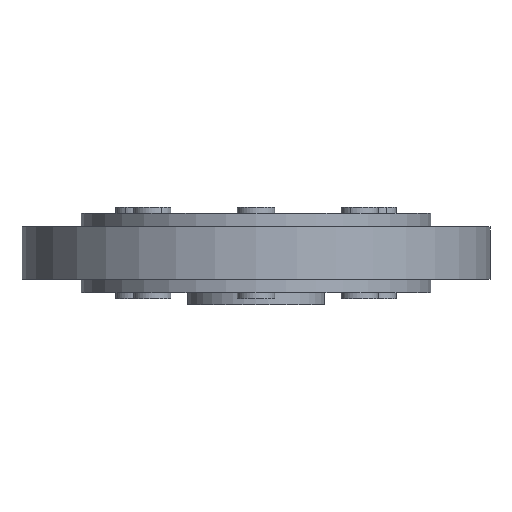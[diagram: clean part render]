
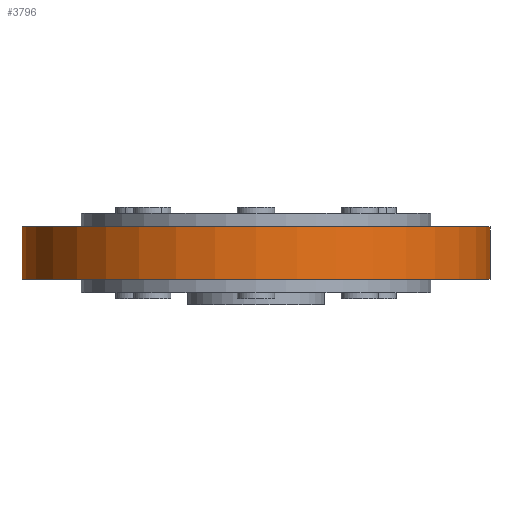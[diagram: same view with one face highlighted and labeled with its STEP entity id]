
A CAD part, front view. The second image highlights one B-rep face of the part: STEP entity #3796.
In plain terms, the highlighted cylindrical face has radius 37.5 mm (diameter 75 mm), a partial arc.
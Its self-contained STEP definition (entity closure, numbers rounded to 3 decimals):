
#27 = EDGE_CURVE ( 'NONE', #8478, #6279, #3710, .T. ) ;
#380 = VERTEX_POINT ( 'NONE', #2029 ) ;
#878 = CARTESIAN_POINT ( 'NONE',  ( 0., 0., -4.2 ) ) ;
#926 = DIRECTION ( 'NONE',  ( 0., 0., 1. ) ) ;
#988 = DIRECTION ( 'NONE',  ( 0., 0., -1. ) ) ;
#1798 = CARTESIAN_POINT ( 'NONE',  ( 37.5, 0., -4.2 ) ) ;
#2029 = CARTESIAN_POINT ( 'NONE',  ( -37.5, 0., 4.2 ) ) ;
#2175 = DIRECTION ( 'NONE',  ( 1., 0., 0. ) ) ;
#2274 = CARTESIAN_POINT ( 'NONE',  ( -37.5, 0., -4.2 ) ) ;
#2385 = DIRECTION ( 'NONE',  ( 1., 0., 0. ) ) ;
#2452 = LINE ( 'NONE', #5168, #3915 ) ;
#2643 = EDGE_CURVE ( 'NONE', #380, #8478, #3775, .T. ) ;
#2874 = CYLINDRICAL_SURFACE ( 'NONE', #8727, 37.5 ) ;
#2930 = DIRECTION ( 'NONE',  ( -1., 0., 0. ) ) ;
#3010 = DIRECTION ( 'NONE',  ( 0., 0., -1. ) ) ;
#3047 = CARTESIAN_POINT ( 'NONE',  ( 0., 0., 4.2 ) ) ;
#3077 = EDGE_CURVE ( 'NONE', #380, #6606, #7009, .T. ) ;
#3226 = ORIENTED_EDGE ( 'NONE', *, *, #3077, .F. ) ;
#3710 = CIRCLE ( 'NONE', #8107, 37.5 ) ;
#3775 = LINE ( 'NONE', #6488, #6181 ) ;
#3796 = ADVANCED_FACE ( 'NONE', ( #6926 ), #2874, .T. ) ;
#3915 = VECTOR ( 'NONE', #988, 1000. ) ;
#4340 = EDGE_LOOP ( 'NONE', ( #4881, #3226, #6226, #5280 ) ) ;
#4881 = ORIENTED_EDGE ( 'NONE', *, *, #6801, .F. ) ;
#4974 = CARTESIAN_POINT ( 'NONE',  ( 0., 0., 4.2 ) ) ;
#5168 = CARTESIAN_POINT ( 'NONE',  ( 37.5, 0., 4.2 ) ) ;
#5280 = ORIENTED_EDGE ( 'NONE', *, *, #27, .T. ) ;
#6181 = VECTOR ( 'NONE', #3010, 1000. ) ;
#6226 = ORIENTED_EDGE ( 'NONE', *, *, #2643, .T. ) ;
#6279 = VERTEX_POINT ( 'NONE', #1798 ) ;
#6488 = CARTESIAN_POINT ( 'NONE',  ( -37.5, 0., 4.2 ) ) ;
#6606 = VERTEX_POINT ( 'NONE', #7654 ) ;
#6801 = EDGE_CURVE ( 'NONE', #6606, #6279, #2452, .T. ) ;
#6926 = FACE_OUTER_BOUND ( 'NONE', #4340, .T. ) ;
#7009 = CIRCLE ( 'NONE', #8313, 37.5 ) ;
#7654 = CARTESIAN_POINT ( 'NONE',  ( 37.5, 0., 4.2 ) ) ;
#8107 = AXIS2_PLACEMENT_3D ( 'NONE', #878, #926, #2175 ) ;
#8306 = DIRECTION ( 'NONE',  ( 0., 0., -1. ) ) ;
#8313 = AXIS2_PLACEMENT_3D ( 'NONE', #3047, #8474, #2385 ) ;
#8474 = DIRECTION ( 'NONE',  ( 0., 0., 1. ) ) ;
#8478 = VERTEX_POINT ( 'NONE', #2274 ) ;
#8727 = AXIS2_PLACEMENT_3D ( 'NONE', #4974, #8306, #2930 ) ;
